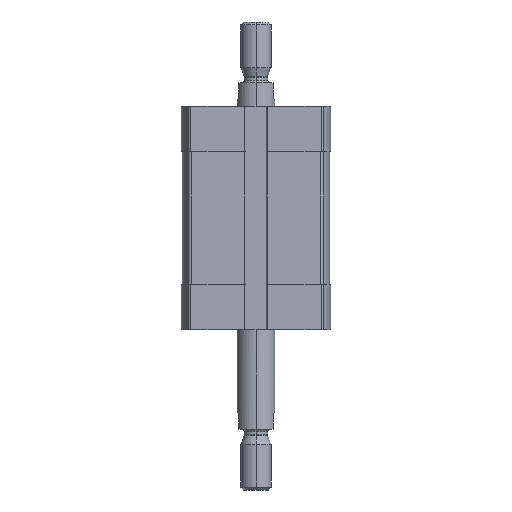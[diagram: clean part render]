
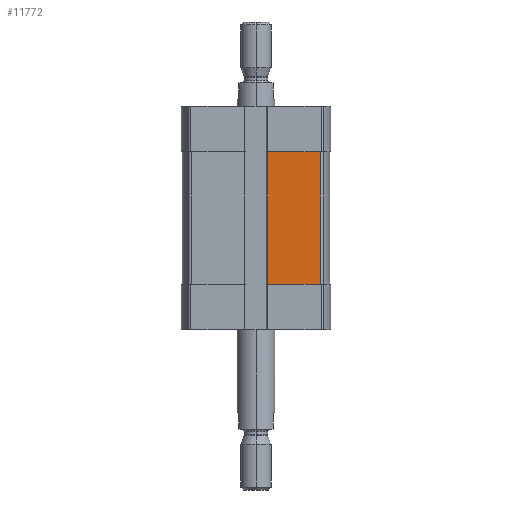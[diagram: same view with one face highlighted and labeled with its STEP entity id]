
A CAD part, left-side view. The second image highlights one B-rep face of the part: STEP entity #11772.
In plain terms, the highlighted planar face has unit normal (-1, 0, 0).
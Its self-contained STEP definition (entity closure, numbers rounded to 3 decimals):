
#51 = LINE ( 'NONE', #2292, #9490 ) ;
#242 = VECTOR ( 'NONE', #12626, 1000. ) ;
#422 = EDGE_CURVE ( 'NONE', #2501, #8100, #12033, .T. ) ;
#734 = DIRECTION ( 'NONE',  ( 0., -1., 0. ) ) ;
#1434 = VECTOR ( 'NONE', #2668, 1000. ) ;
#1671 = EDGE_CURVE ( 'NONE', #7666, #13339, #10100, .T. ) ;
#1698 = CARTESIAN_POINT ( 'NONE',  ( -19.5, -17.091, -47. ) ) ;
#1762 = CARTESIAN_POINT ( 'NONE',  ( -19.5, -17.091, -12. ) ) ;
#2043 = CARTESIAN_POINT ( 'NONE',  ( -19.5, -3.1, -47. ) ) ;
#2292 = CARTESIAN_POINT ( 'NONE',  ( -19.5, -3.1, -47. ) ) ;
#2296 = CARTESIAN_POINT ( 'NONE',  ( -19.5, -17.091, -47. ) ) ;
#2501 = VERTEX_POINT ( 'NONE', #8089 ) ;
#2668 = DIRECTION ( 'NONE',  ( 0., -1., 0. ) ) ;
#3189 = LINE ( 'NONE', #2296, #242 ) ;
#3961 = DIRECTION ( 'NONE',  ( 0., 0., 1. ) ) ;
#4019 = DIRECTION ( 'NONE',  ( -1., 0., 0. ) ) ;
#4173 = EDGE_LOOP ( 'NONE', ( #6671, #4847, #8040, #7755 ) ) ;
#4199 = DIRECTION ( 'NONE',  ( 0., 0., 1. ) ) ;
#4820 = EDGE_CURVE ( 'NONE', #8100, #13339, #3189, .T. ) ;
#4847 = ORIENTED_EDGE ( 'NONE', *, *, #9934, .F. ) ;
#6671 = ORIENTED_EDGE ( 'NONE', *, *, #1671, .F. ) ;
#7666 = VERTEX_POINT ( 'NONE', #11177 ) ;
#7755 = ORIENTED_EDGE ( 'NONE', *, *, #4820, .T. ) ;
#7820 = CARTESIAN_POINT ( 'NONE',  ( -19.5, -3.1, -47. ) ) ;
#8040 = ORIENTED_EDGE ( 'NONE', *, *, #422, .T. ) ;
#8089 = CARTESIAN_POINT ( 'NONE',  ( -19.5, -3.1, -47. ) ) ;
#8100 = VERTEX_POINT ( 'NONE', #1698 ) ;
#8845 = VECTOR ( 'NONE', #734, 1000. ) ;
#9302 = PLANE ( 'NONE',  #12546 ) ;
#9490 = VECTOR ( 'NONE', #4199, 1000. ) ;
#9934 = EDGE_CURVE ( 'NONE', #2501, #7666, #51, .T. ) ;
#10100 = LINE ( 'NONE', #13033, #8845 ) ;
#11177 = CARTESIAN_POINT ( 'NONE',  ( -19.5, -3.1, -12. ) ) ;
#11772 = ADVANCED_FACE ( 'NONE', ( #12302 ), #9302, .T. ) ;
#12033 = LINE ( 'NONE', #7820, #1434 ) ;
#12302 = FACE_OUTER_BOUND ( 'NONE', #4173, .T. ) ;
#12546 = AXIS2_PLACEMENT_3D ( 'NONE', #2043, #4019, #3961 ) ;
#12626 = DIRECTION ( 'NONE',  ( 0., 0., 1. ) ) ;
#13033 = CARTESIAN_POINT ( 'NONE',  ( -19.5, -3.1, -12. ) ) ;
#13339 = VERTEX_POINT ( 'NONE', #1762 ) ;
